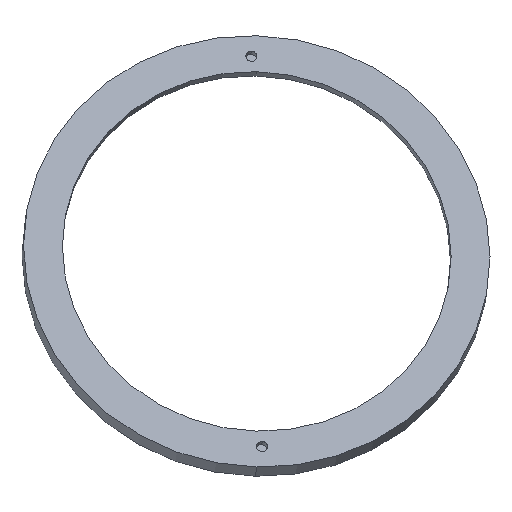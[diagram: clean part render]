
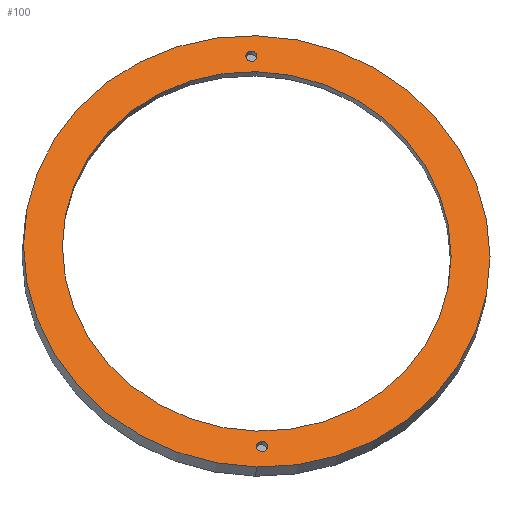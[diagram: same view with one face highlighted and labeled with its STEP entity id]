
A CAD part, top view. The second image highlights one B-rep face of the part: STEP entity #100.
In plain terms, the highlighted planar face has unit normal (0.062, 0.383, 0.922).
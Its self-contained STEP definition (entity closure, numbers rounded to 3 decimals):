
#2 = CARTESIAN_POINT ( 'NONE',  ( -0.29, 111.228, 373.254 ) ) ;
#8 = VERTEX_POINT ( 'NONE', #349 ) ;
#9 = CIRCLE ( 'NONE', #363, 42. ) ;
#18 = FACE_OUTER_BOUND ( 'NONE', #51, .T. ) ;
#27 = CARTESIAN_POINT ( 'NONE',  ( -1.267, 114.934, 371.78 ) ) ;
#37 = CARTESIAN_POINT ( 'NONE',  ( -0.29, 112.152, 372.87 ) ) ;
#40 = DIRECTION ( 'NONE',  ( 0.062, 0.383, 0.922 ) ) ;
#46 = CIRCLE ( 'NONE', #156, 1. ) ;
#51 = EDGE_LOOP ( 'NONE', ( #324, #220 ) ) ;
#56 = VERTEX_POINT ( 'NONE', #2 ) ;
#59 = ORIENTED_EDGE ( 'NONE', *, *, #448, .F. ) ;
#68 = DIRECTION ( 'NONE',  ( 0., -0.923, 0.384 ) ) ;
#75 = DIRECTION ( 'NONE',  ( 0., -0.923, 0.384 ) ) ;
#80 = ORIENTED_EDGE ( 'NONE', *, *, #343, .F. ) ;
#84 = AXIS2_PLACEMENT_3D ( 'NONE', #37, #40, #75 ) ;
#88 = CARTESIAN_POINT ( 'NONE',  ( -1.267, 147.254, 358.348 ) ) ;
#100 = ADVANCED_FACE ( 'NONE', ( #18, #282, #362, #159 ), #406, .F. ) ;
#115 = DIRECTION ( 'NONE',  ( -0.062, -0.383, -0.922 ) ) ;
#123 = ORIENTED_EDGE ( 'NONE', *, *, #501, .F. ) ;
#132 = DIRECTION ( 'NONE',  ( 0.062, 0.383, 0.922 ) ) ;
#135 = CIRCLE ( 'NONE', #243, 1. ) ;
#136 = VERTEX_POINT ( 'NONE', #155 ) ;
#137 = EDGE_LOOP ( 'NONE', ( #123, #320 ) ) ;
#143 = CIRCLE ( 'NONE', #253, 35. ) ;
#155 = CARTESIAN_POINT ( 'NONE',  ( -1.267, 179.574, 344.917 ) ) ;
#156 = AXIS2_PLACEMENT_3D ( 'NONE', #338, #183, #68 ) ;
#159 = FACE_BOUND ( 'NONE', #294, .T. ) ;
#167 = CARTESIAN_POINT ( 'NONE',  ( -1.267, 147.254, 358.348 ) ) ;
#172 = DIRECTION ( 'NONE',  ( -0.062, -0.383, -0.922 ) ) ;
#175 = DIRECTION ( 'NONE',  ( 0.062, 0.383, 0.922 ) ) ;
#177 = EDGE_CURVE ( 'NONE', #56, #8, #227, .T. ) ;
#183 = DIRECTION ( 'NONE',  ( 0.062, 0.383, 0.922 ) ) ;
#190 = DIRECTION ( 'NONE',  ( 0.062, 0.383, 0.922 ) ) ;
#201 = VERTEX_POINT ( 'NONE', #365 ) ;
#220 = ORIENTED_EDGE ( 'NONE', *, *, #248, .F. ) ;
#225 = CARTESIAN_POINT ( 'NONE',  ( -1.267, 108.47, 374.466 ) ) ;
#227 = CIRCLE ( 'NONE', #293, 1. ) ;
#238 = CARTESIAN_POINT ( 'NONE',  ( -0.29, 112.152, 372.87 ) ) ;
#243 = AXIS2_PLACEMENT_3D ( 'NONE', #269, #175, #342 ) ;
#248 = EDGE_CURVE ( 'NONE', #201, #487, #390, .T. ) ;
#253 = AXIS2_PLACEMENT_3D ( 'NONE', #376, #132, #255 ) ;
#255 = DIRECTION ( 'NONE',  ( 0., -0.923, 0.384 ) ) ;
#256 = ORIENTED_EDGE ( 'NONE', *, *, #177, .F. ) ;
#269 = CARTESIAN_POINT ( 'NONE',  ( -2.244, 182.356, 343.826 ) ) ;
#272 = EDGE_CURVE ( 'NONE', #408, #136, #143, .T. ) ;
#278 = EDGE_CURVE ( 'NONE', #487, #201, #9, .T. ) ;
#282 = FACE_BOUND ( 'NONE', #346, .T. ) ;
#284 = CARTESIAN_POINT ( 'NONE',  ( -2.167, 179.585, 344.973 ) ) ;
#293 = AXIS2_PLACEMENT_3D ( 'NONE', #238, #190, #364 ) ;
#294 = EDGE_LOOP ( 'NONE', ( #256, #59 ) ) ;
#298 = CARTESIAN_POINT ( 'NONE',  ( -2.244, 183.28, 343.443 ) ) ;
#320 = ORIENTED_EDGE ( 'NONE', *, *, #445, .F. ) ;
#324 = ORIENTED_EDGE ( 'NONE', *, *, #278, .F. ) ;
#333 = CARTESIAN_POINT ( 'NONE',  ( -1.267, 147.254, 358.348 ) ) ;
#338 = CARTESIAN_POINT ( 'NONE',  ( -2.244, 182.356, 343.826 ) ) ;
#342 = DIRECTION ( 'NONE',  ( 0., -0.923, 0.384 ) ) ;
#343 = EDGE_CURVE ( 'NONE', #136, #408, #368, .T. ) ;
#346 = EDGE_LOOP ( 'NONE', ( #444, #80 ) ) ;
#349 = CARTESIAN_POINT ( 'NONE',  ( -0.29, 113.075, 372.486 ) ) ;
#355 = AXIS2_PLACEMENT_3D ( 'NONE', #284, #115, #401 ) ;
#362 = FACE_BOUND ( 'NONE', #137, .T. ) ;
#363 = AXIS2_PLACEMENT_3D ( 'NONE', #333, #172, #488 ) ;
#364 = DIRECTION ( 'NONE',  ( 0., -0.923, 0.384 ) ) ;
#365 = CARTESIAN_POINT ( 'NONE',  ( -1.267, 186.038, 342.23 ) ) ;
#367 = DIRECTION ( 'NONE',  ( 0., -0.923, 0.384 ) ) ;
#368 = CIRCLE ( 'NONE', #418, 35. ) ;
#375 = DIRECTION ( 'NONE',  ( 0., -0.923, 0.384 ) ) ;
#376 = CARTESIAN_POINT ( 'NONE',  ( -1.267, 147.254, 358.348 ) ) ;
#390 = CIRCLE ( 'NONE', #490, 42. ) ;
#401 = DIRECTION ( 'NONE',  ( 0., 0.923, -0.384 ) ) ;
#406 = PLANE ( 'NONE',  #355 ) ;
#408 = VERTEX_POINT ( 'NONE', #27 ) ;
#416 = DIRECTION ( 'NONE',  ( 0.062, 0.383, 0.922 ) ) ;
#418 = AXIS2_PLACEMENT_3D ( 'NONE', #167, #416, #375 ) ;
#423 = VERTEX_POINT ( 'NONE', #298 ) ;
#432 = CIRCLE ( 'NONE', #84, 1. ) ;
#433 = CARTESIAN_POINT ( 'NONE',  ( -2.244, 181.433, 344.21 ) ) ;
#444 = ORIENTED_EDGE ( 'NONE', *, *, #272, .F. ) ;
#445 = EDGE_CURVE ( 'NONE', #423, #486, #135, .T. ) ;
#448 = EDGE_CURVE ( 'NONE', #8, #56, #432, .T. ) ;
#449 = DIRECTION ( 'NONE',  ( -0.062, -0.383, -0.922 ) ) ;
#486 = VERTEX_POINT ( 'NONE', #433 ) ;
#487 = VERTEX_POINT ( 'NONE', #225 ) ;
#488 = DIRECTION ( 'NONE',  ( 0., -0.923, 0.384 ) ) ;
#490 = AXIS2_PLACEMENT_3D ( 'NONE', #88, #449, #367 ) ;
#501 = EDGE_CURVE ( 'NONE', #486, #423, #46, .T. ) ;
